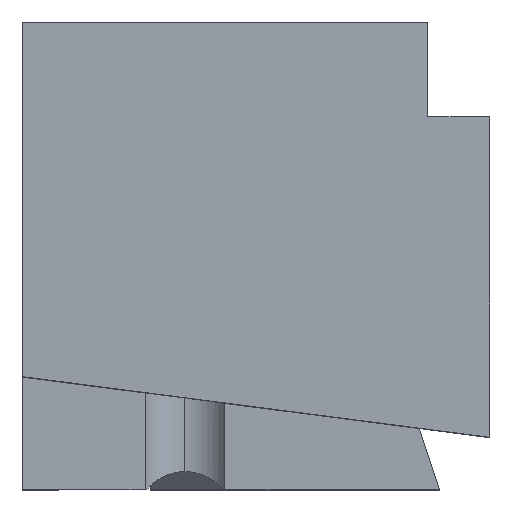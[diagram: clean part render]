
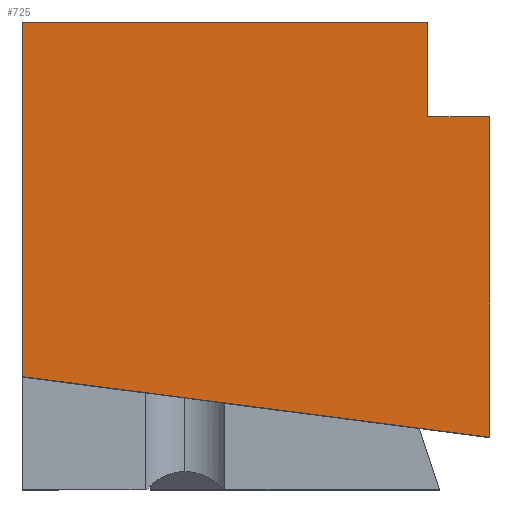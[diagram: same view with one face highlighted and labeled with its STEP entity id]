
A CAD part, top view. The second image highlights one B-rep face of the part: STEP entity #725.
In plain terms, the highlighted planar face has unit normal (0, 0, 1).
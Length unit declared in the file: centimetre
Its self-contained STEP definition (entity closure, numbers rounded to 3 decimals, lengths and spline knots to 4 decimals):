
#35 = EDGE_CURVE ( 'NONE', #1767, #844, #447, .T. ) ;
#45 = VERTEX_POINT ( 'NONE', #145 ) ;
#71 = EDGE_CURVE ( 'NONE', #844, #1027, #490, .T. ) ;
#103 = VECTOR ( 'NONE', #668, 100. ) ;
#129 = CARTESIAN_POINT ( 'NONE',  ( 1000., 1000., 1000. ) ) ;
#145 = CARTESIAN_POINT ( 'NONE',  ( 0., 1000., 1000. ) ) ;
#178 = CARTESIAN_POINT ( 'NONE',  ( 1000., 111.1149, 1000. ) ) ;
#191 = CARTESIAN_POINT ( 'NONE',  ( 0., 240.9193, 1000. ) ) ;
#312 = EDGE_CURVE ( 'NONE', #981, #1767, #1152, .T. ) ;
#339 = DIRECTION ( 'NONE',  ( 0., 1., 0. ) ) ;
#421 = VECTOR ( 'NONE', #902, 100. ) ;
#422 = AXIS2_PLACEMENT_3D ( 'NONE', #707, #1341, #1029 ) ;
#447 = LINE ( 'NONE', #1048, #421 ) ;
#450 = CARTESIAN_POINT ( 'NONE',  ( 0., 1000., 1000. ) ) ;
#476 = CARTESIAN_POINT ( 'NONE',  ( 867.4511, 1000., 1000. ) ) ;
#490 = LINE ( 'NONE', #1092, #1381 ) ;
#668 = DIRECTION ( 'NONE',  ( 0., -1., 0. ) ) ;
#679 = ORIENTED_EDGE ( 'NONE', *, *, #1506, .T. ) ;
#707 = CARTESIAN_POINT ( 'NONE',  ( 0., 0., 1000. ) ) ;
#725 = ADVANCED_FACE ( 'NONE', ( #1137 ), #1331, .T. ) ;
#745 = EDGE_LOOP ( 'NONE', ( #1333, #1133, #1419, #1194, #937, #679 ) ) ;
#746 = LINE ( 'NONE', #178, #1463 ) ;
#826 = LINE ( 'NONE', #1603, #103 ) ;
#844 = VERTEX_POINT ( 'NONE', #1821 ) ;
#898 = VECTOR ( 'NONE', #1801, 100. ) ;
#902 = DIRECTION ( 'NONE',  ( -1., 0., 0. ) ) ;
#937 = ORIENTED_EDGE ( 'NONE', *, *, #1188, .T. ) ;
#956 = EDGE_CURVE ( 'NONE', #981, #1302, #746, .T. ) ;
#981 = VERTEX_POINT ( 'NONE', #1695 ) ;
#1027 = VERTEX_POINT ( 'NONE', #476 ) ;
#1029 = DIRECTION ( 'NONE',  ( 1., 0., 0. ) ) ;
#1042 = LINE ( 'NONE', #450, #898 ) ;
#1048 = CARTESIAN_POINT ( 'NONE',  ( 867.4511, 797.4768, 1000. ) ) ;
#1092 = CARTESIAN_POINT ( 'NONE',  ( 867.4511, 797.4768, 1000. ) ) ;
#1133 = ORIENTED_EDGE ( 'NONE', *, *, #312, .T. ) ;
#1137 = FACE_OUTER_BOUND ( 'NONE', #745, .T. ) ;
#1152 = LINE ( 'NONE', #129, #1308 ) ;
#1188 = EDGE_CURVE ( 'NONE', #1027, #45, #1042, .T. ) ;
#1194 = ORIENTED_EDGE ( 'NONE', *, *, #71, .T. ) ;
#1302 = VERTEX_POINT ( 'NONE', #191 ) ;
#1308 = VECTOR ( 'NONE', #1468, 100. ) ;
#1331 = PLANE ( 'NONE',  #422 ) ;
#1333 = ORIENTED_EDGE ( 'NONE', *, *, #956, .F. ) ;
#1341 = DIRECTION ( 'NONE',  ( 0., 0., 1. ) ) ;
#1381 = VECTOR ( 'NONE', #339, 100. ) ;
#1419 = ORIENTED_EDGE ( 'NONE', *, *, #35, .T. ) ;
#1463 = VECTOR ( 'NONE', #1827, 100. ) ;
#1468 = DIRECTION ( 'NONE',  ( 0., 1., 0. ) ) ;
#1506 = EDGE_CURVE ( 'NONE', #45, #1302, #826, .T. ) ;
#1523 = CARTESIAN_POINT ( 'NONE',  ( 1000., 797.4768, 1000. ) ) ;
#1603 = CARTESIAN_POINT ( 'NONE',  ( 0., 1000., 1000. ) ) ;
#1695 = CARTESIAN_POINT ( 'NONE',  ( 1000., 111.1149, 1000. ) ) ;
#1767 = VERTEX_POINT ( 'NONE', #1523 ) ;
#1801 = DIRECTION ( 'NONE',  ( -1., 0., 0. ) ) ;
#1821 = CARTESIAN_POINT ( 'NONE',  ( 867.4511, 797.4768, 1000. ) ) ;
#1827 = DIRECTION ( 'NONE',  ( -0.992, 0.129, 0. ) ) ;
